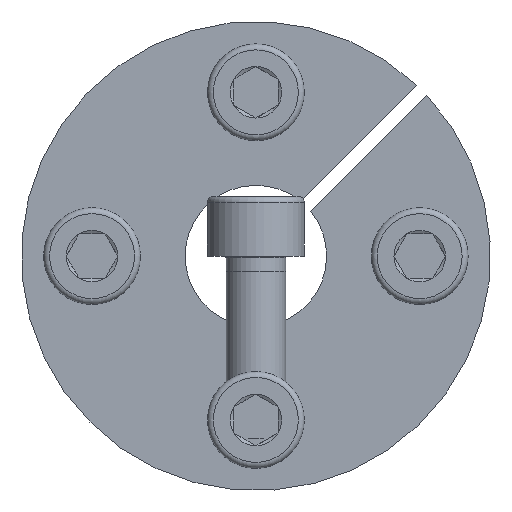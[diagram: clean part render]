
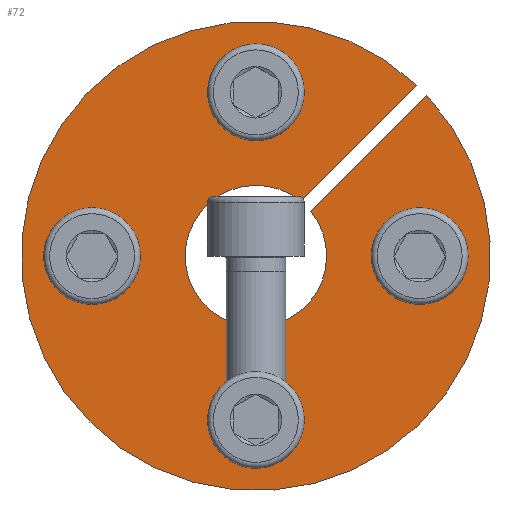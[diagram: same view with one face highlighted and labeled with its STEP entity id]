
A CAD part, front view. The second image highlights one B-rep face of the part: STEP entity #72.
In plain terms, the highlighted planar face has unit normal (0, -1, 0).
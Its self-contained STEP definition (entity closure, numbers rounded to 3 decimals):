
#72 = ADVANCED_FACE( '', ( #149, #150, #151, #152, #153 ), #154, .F. );
#149 = FACE_OUTER_BOUND( '', #255, .T. );
#150 = FACE_BOUND( '', #256, .T. );
#151 = FACE_BOUND( '', #257, .T. );
#152 = FACE_BOUND( '', #258, .T. );
#153 = FACE_BOUND( '', #259, .T. );
#154 = PLANE( '', #260 );
#255 = EDGE_LOOP( '', ( #402, #403, #404, #405 ) );
#256 = EDGE_LOOP( '', ( #406 ) );
#257 = EDGE_LOOP( '', ( #407 ) );
#258 = EDGE_LOOP( '', ( #408 ) );
#259 = EDGE_LOOP( '', ( #409 ) );
#260 = AXIS2_PLACEMENT_3D( '', #410, #411, #412 );
#402 = ORIENTED_EDGE( '', *, *, #617, .T. );
#403 = ORIENTED_EDGE( '', *, *, #618, .T. );
#404 = ORIENTED_EDGE( '', *, *, #619, .T. );
#405 = ORIENTED_EDGE( '', *, *, #620, .F. );
#406 = ORIENTED_EDGE( '', *, *, #621, .F. );
#407 = ORIENTED_EDGE( '', *, *, #622, .F. );
#408 = ORIENTED_EDGE( '', *, *, #623, .F. );
#409 = ORIENTED_EDGE( '', *, *, #624, .F. );
#410 = CARTESIAN_POINT( '', ( 0., 0., 31.5 ) );
#411 = DIRECTION( '', ( 0., 1., 0. ) );
#412 = DIRECTION( '', ( 1., 0., 0. ) );
#617 = EDGE_CURVE( '', #761, #762, #763, .T. );
#618 = EDGE_CURVE( '', #762, #764, #765, .T. );
#619 = EDGE_CURVE( '', #764, #766, #767, .T. );
#620 = EDGE_CURVE( '', #761, #766, #768, .T. );
#621 = EDGE_CURVE( '', #769, #769, #770, .T. );
#622 = EDGE_CURVE( '', #771, #771, #772, .T. );
#623 = EDGE_CURVE( '', #773, #773, #774, .T. );
#624 = EDGE_CURVE( '', #775, #775, #776, .T. );
#761 = VERTEX_POINT( '', #1020 );
#762 = VERTEX_POINT( '', #1021 );
#763 = LINE( '', #1022, #1023 );
#764 = VERTEX_POINT( '', #1024 );
#765 = CIRCLE( '', #1025, 31.5 );
#766 = VERTEX_POINT( '', #1026 );
#767 = LINE( '', #1027, #1028 );
#768 = CIRCLE( '', #1029, 9.5 );
#769 = VERTEX_POINT( '', #1030 );
#770 = CIRCLE( '', #1031, 4.5 );
#771 = VERTEX_POINT( '', #1032 );
#772 = CIRCLE( '', #1033, 4.5 );
#773 = VERTEX_POINT( '', #1034 );
#774 = CIRCLE( '', #1035, 4.5 );
#775 = VERTEX_POINT( '', #1036 );
#776 = CIRCLE( '', #1037, 4.5 );
#1020 = CARTESIAN_POINT( '', ( 5.973, 0., 7.387 ) );
#1021 = CARTESIAN_POINT( '', ( 21.556, 0., 22.97 ) );
#1022 = CARTESIAN_POINT( '', ( 5.973, 0., 7.387 ) );
#1023 = VECTOR( '', #1164, 1000. );
#1024 = CARTESIAN_POINT( '', ( 22.97, 0., 21.556 ) );
#1025 = AXIS2_PLACEMENT_3D( '', #1165, #1166, #1167 );
#1026 = CARTESIAN_POINT( '', ( 7.387, 0., 5.973 ) );
#1027 = CARTESIAN_POINT( '', ( 22.981, 0., 21.567 ) );
#1028 = VECTOR( '', #1168, 1000. );
#1029 = AXIS2_PLACEMENT_3D( '', #1169, #1170, #1171 );
#1030 = CARTESIAN_POINT( '', ( 4.5, 0., 22. ) );
#1031 = AXIS2_PLACEMENT_3D( '', #1172, #1173, #1174 );
#1032 = CARTESIAN_POINT( '', ( 22., 0., -4.5 ) );
#1033 = AXIS2_PLACEMENT_3D( '', #1175, #1176, #1177 );
#1034 = CARTESIAN_POINT( '', ( -4.5, 0., -22. ) );
#1035 = AXIS2_PLACEMENT_3D( '', #1178, #1179, #1180 );
#1036 = CARTESIAN_POINT( '', ( -22., 0., 4.5 ) );
#1037 = AXIS2_PLACEMENT_3D( '', #1181, #1182, #1183 );
#1164 = DIRECTION( '', ( 0.707, 0., 0.707 ) );
#1165 = CARTESIAN_POINT( '', ( 0., 0., 0. ) );
#1166 = DIRECTION( '', ( 0., -1., 0. ) );
#1167 = DIRECTION( '', ( 0., 0., -1. ) );
#1168 = DIRECTION( '', ( -0.707, 0., -0.707 ) );
#1169 = CARTESIAN_POINT( '', ( 0., 0., 0. ) );
#1170 = DIRECTION( '', ( 0., -1., 0. ) );
#1171 = DIRECTION( '', ( 0., 0., -1. ) );
#1172 = CARTESIAN_POINT( '', ( 0., 0., 22. ) );
#1173 = DIRECTION( '', ( 0., -1., 0. ) );
#1174 = DIRECTION( '', ( 1., 0., 0. ) );
#1175 = CARTESIAN_POINT( '', ( 22., 0., 0. ) );
#1176 = DIRECTION( '', ( 0., -1., 0. ) );
#1177 = DIRECTION( '', ( 0., 0., -1. ) );
#1178 = CARTESIAN_POINT( '', ( 0., 0., -22. ) );
#1179 = DIRECTION( '', ( 0., -1., 0. ) );
#1180 = DIRECTION( '', ( -1., 0., 0. ) );
#1181 = CARTESIAN_POINT( '', ( -22., 0., 0. ) );
#1182 = DIRECTION( '', ( 0., -1., 0. ) );
#1183 = DIRECTION( '', ( 0., 0., 1. ) );
